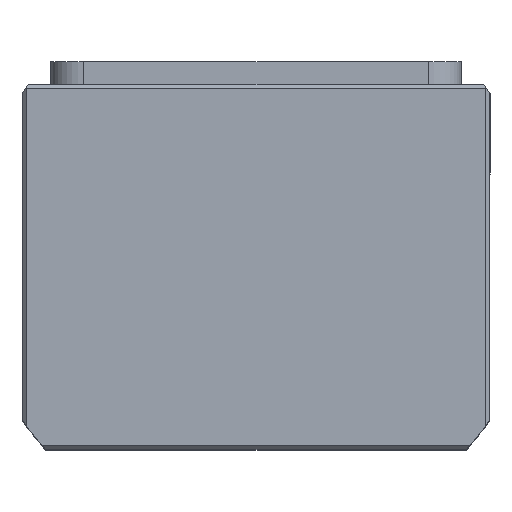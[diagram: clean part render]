
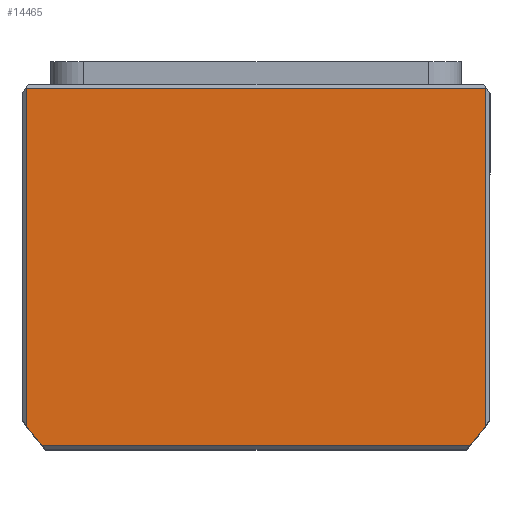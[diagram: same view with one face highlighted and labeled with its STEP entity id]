
A CAD part, top view. The second image highlights one B-rep face of the part: STEP entity #14465.
In plain terms, the highlighted planar face has unit normal (0, 0, 1) as drawn and (0, 0, -1) by its records, which use the part's own axes.
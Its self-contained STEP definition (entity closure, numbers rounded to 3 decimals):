
#859 = CARTESIAN_POINT ( 'NONE',  ( 56., 38.661, 0. ) ) ;
#1037 = EDGE_CURVE ( 'NONE', #7448, #5332, #3687, .T. ) ;
#1964 = CARTESIAN_POINT ( 'NONE',  ( 52.098, 43.5, 0. ) ) ;
#2052 = AXIS2_PLACEMENT_3D ( 'NONE', #17503, #21148, #10162 ) ;
#2821 = CARTESIAN_POINT ( 'NONE',  ( -56., 0., 0. ) ) ;
#3687 = LINE ( 'NONE', #16037, #12840 ) ;
#4285 = DIRECTION ( 'NONE',  ( 0., 0., 1. ) ) ;
#4400 = ORIENTED_EDGE ( 'NONE', *, *, #16109, .T. ) ;
#4474 = EDGE_CURVE ( 'NONE', #7448, #10518, #14314, .T. ) ;
#4758 = DIRECTION ( 'NONE',  ( 0., 1., 0. ) ) ;
#5332 = VERTEX_POINT ( 'NONE', #1964 ) ;
#5951 = CARTESIAN_POINT ( 'NONE',  ( -52.098, 43.5, 0. ) ) ;
#6149 = VERTEX_POINT ( 'NONE', #859 ) ;
#6882 = LINE ( 'NONE', #9513, #12251 ) ;
#7448 = VERTEX_POINT ( 'NONE', #5951 ) ;
#7634 = LINE ( 'NONE', #2821, #12441 ) ;
#7820 = CARTESIAN_POINT ( 'NONE',  ( 0., -2.5, 0. ) ) ;
#7863 = ORIENTED_EDGE ( 'NONE', *, *, #1037, .T. ) ;
#9024 = EDGE_LOOP ( 'NONE', ( #22716, #18404, #4400, #15078, #22102, #7863 ) ) ;
#9513 = CARTESIAN_POINT ( 'NONE',  ( 0., -43.5, 0. ) ) ;
#9615 = DIRECTION ( 'NONE',  ( 1., 0., 0. ) ) ;
#10162 = DIRECTION ( 'NONE',  ( 1., 0., 0. ) ) ;
#10518 = VERTEX_POINT ( 'NONE', #20965 ) ;
#11552 = VECTOR ( 'NONE', #19002, 1000. ) ;
#12251 = VECTOR ( 'NONE', #19175, 1000. ) ;
#12441 = VECTOR ( 'NONE', #4758, 1000. ) ;
#12704 = EDGE_CURVE ( 'NONE', #16531, #10518, #7634, .T. ) ;
#12769 = CARTESIAN_POINT ( 'NONE',  ( -56., -43.5, 0. ) ) ;
#12840 = VECTOR ( 'NONE', #16061, 1000. ) ;
#13549 = EDGE_CURVE ( 'NONE', #6149, #22783, #21312, .T. ) ;
#14314 = CIRCLE ( 'NONE', #17423, 69.5 ) ;
#14465 = ADVANCED_FACE ( 'NONE', ( #21025 ), #22879, .F. ) ;
#15078 = ORIENTED_EDGE ( 'NONE', *, *, #12704, .T. ) ;
#15267 = CARTESIAN_POINT ( 'NONE',  ( 0., -2.5, 0. ) ) ;
#16037 = CARTESIAN_POINT ( 'NONE',  ( 0., 43.5, 0. ) ) ;
#16061 = DIRECTION ( 'NONE',  ( 1., 0., 0. ) ) ;
#16109 = EDGE_CURVE ( 'NONE', #22783, #16531, #6882, .T. ) ;
#16531 = VERTEX_POINT ( 'NONE', #12769 ) ;
#17128 = DIRECTION ( 'NONE',  ( 1., 0., 0. ) ) ;
#17131 = CARTESIAN_POINT ( 'NONE',  ( 56., -43.5, 0. ) ) ;
#17423 = AXIS2_PLACEMENT_3D ( 'NONE', #15267, #4285, #17128 ) ;
#17503 = CARTESIAN_POINT ( 'NONE',  ( 0., 0., 0. ) ) ;
#18187 = EDGE_CURVE ( 'NONE', #6149, #5332, #21999, .T. ) ;
#18404 = ORIENTED_EDGE ( 'NONE', *, *, #13549, .T. ) ;
#18970 = AXIS2_PLACEMENT_3D ( 'NONE', #7820, #20613, #9615 ) ;
#19002 = DIRECTION ( 'NONE',  ( 0., -1., 0. ) ) ;
#19175 = DIRECTION ( 'NONE',  ( -1., 0., 0. ) ) ;
#20613 = DIRECTION ( 'NONE',  ( 0., 0., 1. ) ) ;
#20965 = CARTESIAN_POINT ( 'NONE',  ( -56., 38.661, 0. ) ) ;
#21025 = FACE_OUTER_BOUND ( 'NONE', #9024, .T. ) ;
#21148 = DIRECTION ( 'NONE',  ( 0., 0., 1. ) ) ;
#21312 = LINE ( 'NONE', #22597, #11552 ) ;
#21999 = CIRCLE ( 'NONE', #18970, 69.5 ) ;
#22102 = ORIENTED_EDGE ( 'NONE', *, *, #4474, .F. ) ;
#22597 = CARTESIAN_POINT ( 'NONE',  ( 56., 0., 0. ) ) ;
#22716 = ORIENTED_EDGE ( 'NONE', *, *, #18187, .F. ) ;
#22783 = VERTEX_POINT ( 'NONE', #17131 ) ;
#22879 = PLANE ( 'NONE',  #2052 ) ;
